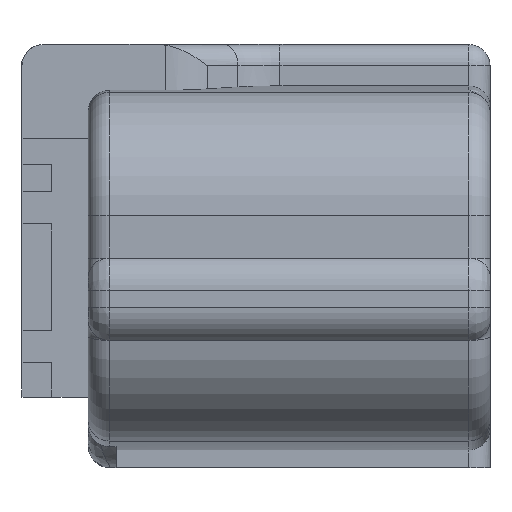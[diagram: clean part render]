
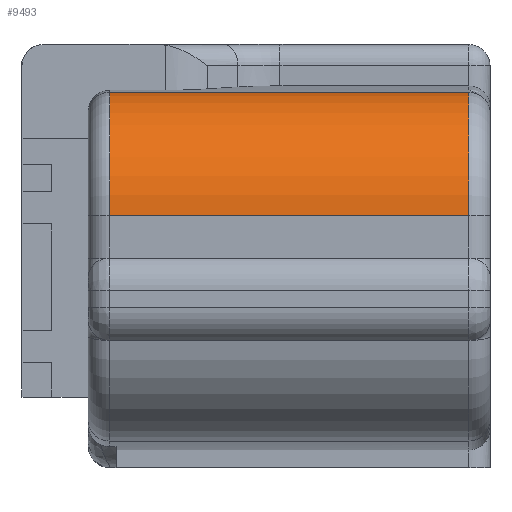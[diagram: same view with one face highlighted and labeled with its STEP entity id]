
A CAD part, front view. The second image highlights one B-rep face of the part: STEP entity #9493.
In plain terms, the highlighted cylindrical face has radius 5.8 mm (diameter 11.6 mm), a partial arc.
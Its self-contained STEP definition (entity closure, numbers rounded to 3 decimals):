
#7838=CARTESIAN_POINT('Vertex',(-1.,-1.091,7.161)) ;
#7841=CARTESIAN_POINT('Axis2P3D Location',(-1.,-0.5,1.391)) ;
#7845=CARTESIAN_POINT('Vertex',(-1.,-6.3,1.391)) ;
#9447=CARTESIAN_POINT('Line Origine',(-10.01,-1.091,7.161)) ;
#9451=CARTESIAN_POINT('Vertex',(-17.8,-1.091,7.161)) ;
#9470=CARTESIAN_POINT('Axis2P3D Location',(-10.01,-0.5,1.391)) ;
#9475=CARTESIAN_POINT('Line Origine',(-10.01,-6.3,1.391)) ;
#9479=CARTESIAN_POINT('Vertex',(-17.8,-6.3,1.391)) ;
#9482=CARTESIAN_POINT('Axis2P3D Location',(-17.8,-0.5,1.391)) ;
#7842=DIRECTION('Axis2P3D Direction',(1.,-0.,0.)) ;
#9448=DIRECTION('Vector Direction',(1.,0.,0.)) ;
#9471=DIRECTION('Axis2P3D Direction',(1.,0.,0.)) ;
#9472=DIRECTION('Axis2P3D XDirection',(0.,-0.102,0.995)) ;
#9476=DIRECTION('Vector Direction',(1.,0.,0.)) ;
#9483=DIRECTION('Axis2P3D Direction',(1.,0.,0.)) ;
#7843=AXIS2_PLACEMENT_3D('Circle Axis2P3D',#7841,#7842,$) ;
#9473=AXIS2_PLACEMENT_3D('Cylinder Axis2P3D',#9470,#9471,#9472) ;
#9484=AXIS2_PLACEMENT_3D('Circle Axis2P3D',#9482,#9483,$) ;
#9488=ORIENTED_EDGE('',*,*,#9481,.F.) ;
#9489=ORIENTED_EDGE('',*,*,#7847,.F.) ;
#9490=ORIENTED_EDGE('',*,*,#9453,.T.) ;
#9491=ORIENTED_EDGE('',*,*,#9486,.T.) ;
#9449=VECTOR('Line Direction',#9448,1.) ;
#9477=VECTOR('Line Direction',#9476,1.) ;
#9493=ADVANCED_FACE('\X2\FF8AFF9FFF70FF82\X0\ \X2\FF8EFF9EFF83FF9EFF68FF70\X0\',(#9492),#9474,.T.) ;
#7844=CIRCLE('generated circle',#7843,5.8) ;
#9485=CIRCLE('generated circle',#9484,5.8) ;
#9474=CYLINDRICAL_SURFACE('generated cylinder',#9473,5.8) ;
#7847=EDGE_CURVE('',#7839,#7846,#7844,.T.) ;
#9453=EDGE_CURVE('',#7839,#9452,#9450,.F.) ;
#9481=EDGE_CURVE('',#7846,#9480,#9478,.F.) ;
#9486=EDGE_CURVE('',#9452,#9480,#9485,.T.) ;
#9487=EDGE_LOOP('',(#9488,#9489,#9490,#9491)) ;
#9492=FACE_OUTER_BOUND('',#9487,.T.) ;
#9450=LINE('Line',#9447,#9449) ;
#9478=LINE('Line',#9475,#9477) ;
#7839=VERTEX_POINT('',#7838) ;
#7846=VERTEX_POINT('',#7845) ;
#9452=VERTEX_POINT('',#9451) ;
#9480=VERTEX_POINT('',#9479) ;
